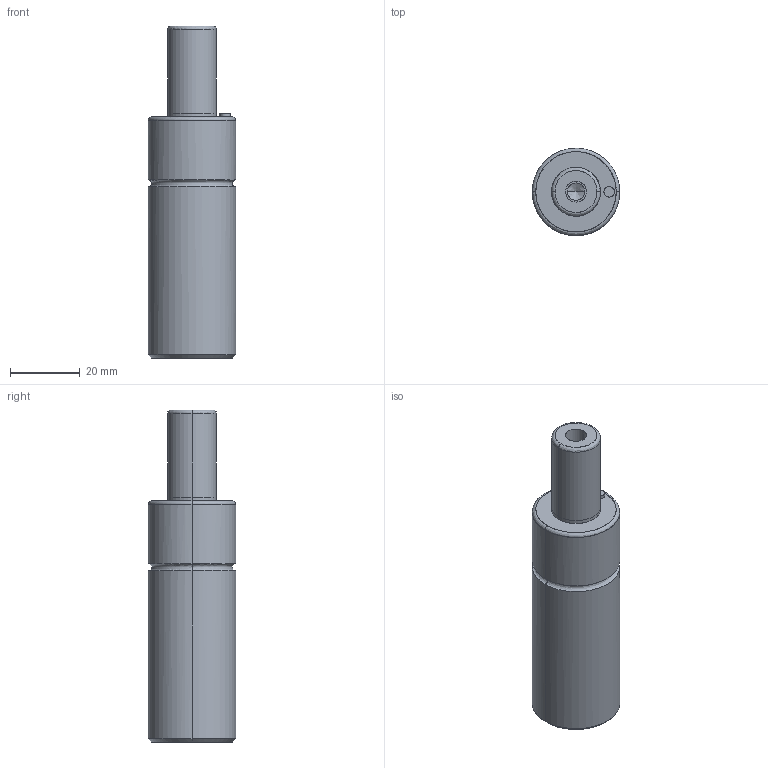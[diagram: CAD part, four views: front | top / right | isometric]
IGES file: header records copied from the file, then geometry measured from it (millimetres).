
Global section: file name: E:\UnigraphicsGraphicData\MISUMI_PRESS-PARTS\IGES\3d_mgsa25-25_04557_r00.igs; native system: NX V5.0; preprocessor: UGS NX IGES V5.0; author: MISUMI; date: 20110105.161432; units: millimetre
Bounding box: 25 x 24.93 x 95 mm (x, y, z)
Surface area: 7865.7 mm2 (no closed solid volume)
Topology: 0 solids, 0 shells, 36 faces, 216 edges, 212 vertices
Faces by surface type: bspline 36
